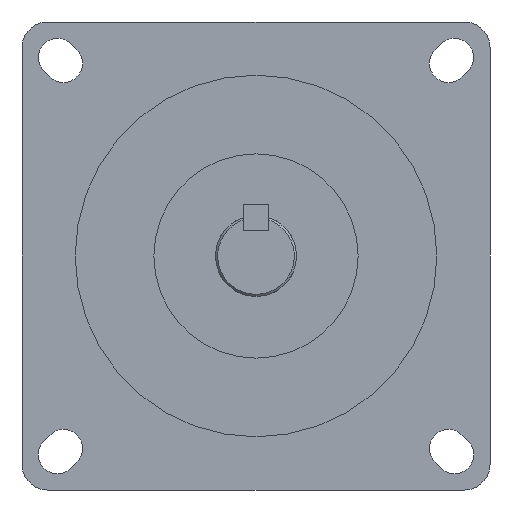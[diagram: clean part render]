
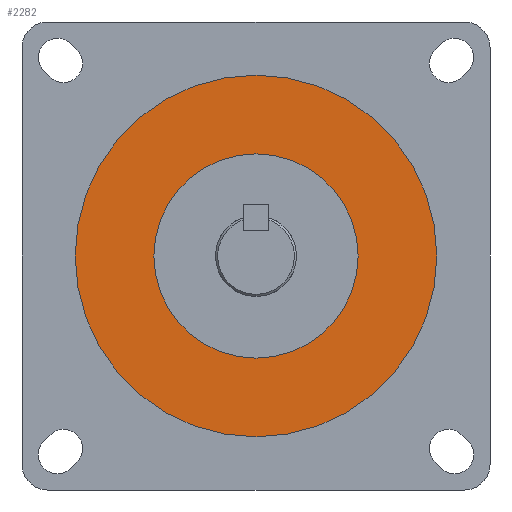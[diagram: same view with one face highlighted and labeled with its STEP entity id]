
A CAD part, left-side view. The second image highlights one B-rep face of the part: STEP entity #2282.
In plain terms, the highlighted planar face has unit normal (-1, 0, 0).
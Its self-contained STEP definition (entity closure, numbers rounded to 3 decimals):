
#28 = CIRCLE ( 'NONE', #2441, 24. ) ;
#74 = CARTESIAN_POINT ( 'NONE',  ( -3.5, 0., -42.5 ) ) ;
#86 = DIRECTION ( 'NONE',  ( -1., 0., 0. ) ) ;
#185 = AXIS2_PLACEMENT_3D ( 'NONE', #219, #4108, #3652 ) ;
#219 = CARTESIAN_POINT ( 'NONE',  ( -3.5, 0., 0. ) ) ;
#312 = EDGE_CURVE ( 'NONE', #3987, #3109, #28, .T. ) ;
#338 = EDGE_CURVE ( 'NONE', #3482, #3047, #703, .T. ) ;
#527 = CARTESIAN_POINT ( 'NONE',  ( -3.5, 0., 0. ) ) ;
#597 = DIRECTION ( 'NONE',  ( 0., 0., 1. ) ) ;
#643 = CARTESIAN_POINT ( 'NONE',  ( -3.5, 0., 42.5 ) ) ;
#703 = CIRCLE ( 'NONE', #1441, 42.5 ) ;
#786 = EDGE_LOOP ( 'NONE', ( #4236, #2113 ) ) ;
#821 = DIRECTION ( 'NONE',  ( 0., 0., 1. ) ) ;
#840 = EDGE_CURVE ( 'NONE', #3047, #3482, #2027, .T. ) ;
#970 = PLANE ( 'NONE',  #4018 ) ;
#1007 = CARTESIAN_POINT ( 'NONE',  ( -3.5, 0., -24. ) ) ;
#1050 = DIRECTION ( 'NONE',  ( -1., 0., 0. ) ) ;
#1249 = DIRECTION ( 'NONE',  ( -1., 0., 0. ) ) ;
#1441 = AXIS2_PLACEMENT_3D ( 'NONE', #1482, #1050, #597 ) ;
#1446 = DIRECTION ( 'NONE',  ( 0., 0., 1. ) ) ;
#1482 = CARTESIAN_POINT ( 'NONE',  ( -3.5, 0., 0. ) ) ;
#1640 = EDGE_CURVE ( 'NONE', #3109, #3987, #2385, .T. ) ;
#1885 = DIRECTION ( 'NONE',  ( -1., 0., 0. ) ) ;
#2027 = CIRCLE ( 'NONE', #2590, 42.5 ) ;
#2113 = ORIENTED_EDGE ( 'NONE', *, *, #1640, .F. ) ;
#2131 = CARTESIAN_POINT ( 'NONE',  ( -3.5, 0., 0. ) ) ;
#2282 = ADVANCED_FACE ( 'NONE', ( #3795, #3899 ), #970, .T. ) ;
#2303 = ORIENTED_EDGE ( 'NONE', *, *, #338, .T. ) ;
#2385 = CIRCLE ( 'NONE', #185, 24. ) ;
#2441 = AXIS2_PLACEMENT_3D ( 'NONE', #2131, #1249, #821 ) ;
#2590 = AXIS2_PLACEMENT_3D ( 'NONE', #3660, #1885, #1446 ) ;
#2790 = ORIENTED_EDGE ( 'NONE', *, *, #840, .T. ) ;
#3047 = VERTEX_POINT ( 'NONE', #74 ) ;
#3109 = VERTEX_POINT ( 'NONE', #4198 ) ;
#3482 = VERTEX_POINT ( 'NONE', #643 ) ;
#3562 = EDGE_LOOP ( 'NONE', ( #2790, #2303 ) ) ;
#3652 = DIRECTION ( 'NONE',  ( 0., 0., 1. ) ) ;
#3660 = CARTESIAN_POINT ( 'NONE',  ( -3.5, 0., 0. ) ) ;
#3795 = FACE_OUTER_BOUND ( 'NONE', #3562, .T. ) ;
#3899 = FACE_BOUND ( 'NONE', #786, .T. ) ;
#3963 = DIRECTION ( 'NONE',  ( 0., 0., 1. ) ) ;
#3987 = VERTEX_POINT ( 'NONE', #1007 ) ;
#4018 = AXIS2_PLACEMENT_3D ( 'NONE', #527, #86, #3963 ) ;
#4108 = DIRECTION ( 'NONE',  ( -1., 0., 0. ) ) ;
#4198 = CARTESIAN_POINT ( 'NONE',  ( -3.5, 0., 24. ) ) ;
#4236 = ORIENTED_EDGE ( 'NONE', *, *, #312, .F. ) ;
